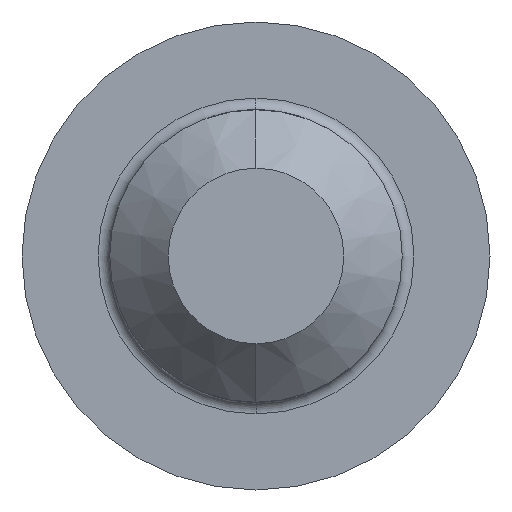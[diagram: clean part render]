
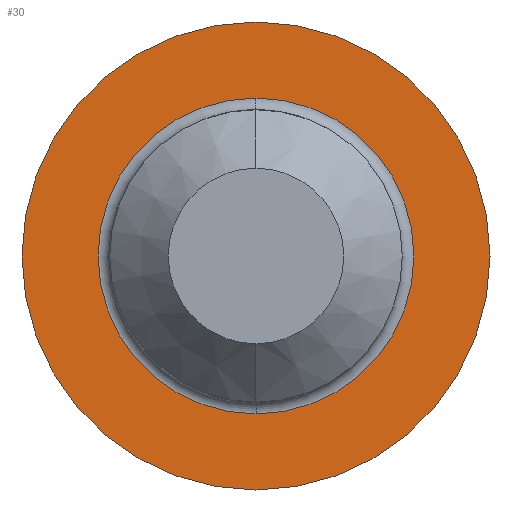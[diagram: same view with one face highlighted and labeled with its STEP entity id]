
A CAD part, left-side view. The second image highlights one B-rep face of the part: STEP entity #30.
In plain terms, the highlighted planar face has unit normal (-1, 0, 0).
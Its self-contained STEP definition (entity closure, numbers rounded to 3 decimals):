
#1 = CARTESIAN_POINT ( 'NONE',  ( 0., 0., 0. ) ) ;
#2 = AXIS2_PLACEMENT_3D ( 'NONE', #1, #6, #7 ) ;
#4 = CIRCLE ( 'NONE', #2, 4. ) ;
#6 = DIRECTION ( 'NONE',  ( -1., 0., 0. ) ) ;
#7 = DIRECTION ( 'NONE',  ( 0., 0., 1. ) ) ;
#21 = EDGE_CURVE ( 'NONE', #131, #123, #4, .T. ) ;
#23 = ORIENTED_EDGE ( 'NONE', *, *, #21, .T. ) ;
#24 = ORIENTED_EDGE ( 'NONE', *, *, #160, .T. ) ;
#26 = ORIENTED_EDGE ( 'NONE', *, *, #63, .T. ) ;
#28 = EDGE_LOOP ( 'NONE', ( #26, #23 ) ) ;
#30 = ADVANCED_FACE ( 'NONE', ( #203, #202 ), #198, .F. ) ;
#49 = EDGE_CURVE ( 'NONE', #139, #138, #264, .T. ) ;
#63 = EDGE_CURVE ( 'NONE', #123, #131, #214, .T. ) ;
#71 = ORIENTED_EDGE ( 'NONE', *, *, #49, .T. ) ;
#123 = VERTEX_POINT ( 'NONE', #411 ) ;
#126 = EDGE_LOOP ( 'NONE', ( #71, #24 ) ) ;
#131 = VERTEX_POINT ( 'NONE', #402 ) ;
#138 = VERTEX_POINT ( 'NONE', #305 ) ;
#139 = VERTEX_POINT ( 'NONE', #375 ) ;
#160 = EDGE_CURVE ( 'NONE', #138, #139, #472, .T. ) ;
#175 = CARTESIAN_POINT ( 'NONE',  ( 0., 4., 0. ) ) ;
#195 = AXIS2_PLACEMENT_3D ( 'NONE', #175, #329, #328 ) ;
#198 = PLANE ( 'NONE',  #195 ) ;
#202 = FACE_OUTER_BOUND ( 'NONE', #28, .T. ) ;
#203 = FACE_BOUND ( 'NONE', #126, .T. ) ;
#206 = AXIS2_PLACEMENT_3D ( 'NONE', #254, #389, #388 ) ;
#214 = CIRCLE ( 'NONE', #206, 4. ) ;
#225 = DIRECTION ( 'NONE',  ( 0., 0., -1. ) ) ;
#226 = DIRECTION ( 'NONE',  ( 1., 0., 0. ) ) ;
#227 = AXIS2_PLACEMENT_3D ( 'NONE', #230, #226, #225 ) ;
#230 = CARTESIAN_POINT ( 'NONE',  ( 0., 0., 0. ) ) ;
#254 = CARTESIAN_POINT ( 'NONE',  ( 0., 0., 0. ) ) ;
#264 = CIRCLE ( 'NONE', #227, 2.7 ) ;
#305 = CARTESIAN_POINT ( 'NONE',  ( 0., 0., 2.7 ) ) ;
#328 = DIRECTION ( 'NONE',  ( 0., 0., -1. ) ) ;
#329 = DIRECTION ( 'NONE',  ( 1., 0., 0. ) ) ;
#375 = CARTESIAN_POINT ( 'NONE',  ( 0., 0., -2.7 ) ) ;
#388 = DIRECTION ( 'NONE',  ( 0., 0., 1. ) ) ;
#389 = DIRECTION ( 'NONE',  ( -1., 0., 0. ) ) ;
#402 = CARTESIAN_POINT ( 'NONE',  ( 0., 0., -4. ) ) ;
#411 = CARTESIAN_POINT ( 'NONE',  ( 0., 0., 4. ) ) ;
#421 = AXIS2_PLACEMENT_3D ( 'NONE', #460, #459, #458 ) ;
#458 = DIRECTION ( 'NONE',  ( 0., 0., -1. ) ) ;
#459 = DIRECTION ( 'NONE',  ( 1., 0., 0. ) ) ;
#460 = CARTESIAN_POINT ( 'NONE',  ( 0., 0., 0. ) ) ;
#472 = CIRCLE ( 'NONE', #421, 2.7 ) ;
